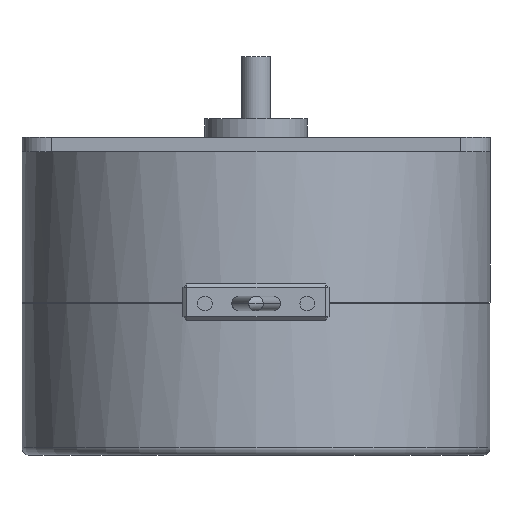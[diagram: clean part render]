
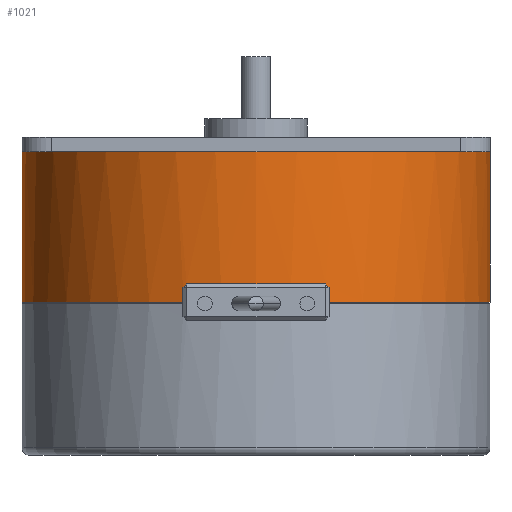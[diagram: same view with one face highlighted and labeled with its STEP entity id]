
A CAD part, front view. The second image highlights one B-rep face of the part: STEP entity #1021.
In plain terms, the highlighted cylindrical face has radius 32 mm (diameter 64 mm), a partial arc.
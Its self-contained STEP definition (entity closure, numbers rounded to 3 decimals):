
#27 = VERTEX_POINT ( 'NONE', #2738 ) ;
#48 = ORIENTED_EDGE ( 'NONE', *, *, #1507, .F. ) ;
#54 = CARTESIAN_POINT ( 'NONE',  ( 10., -30.397, -20.55 ) ) ;
#73 = EDGE_CURVE ( 'NONE', #1800, #1531, #1394, .T. ) ;
#81 = CARTESIAN_POINT ( 'NONE',  ( 9.5, -30.557, -20.05 ) ) ;
#106 = CARTESIAN_POINT ( 'NONE',  ( -32., 0., -22.55 ) ) ;
#148 = VERTEX_POINT ( 'NONE', #2858 ) ;
#173 = DIRECTION ( 'NONE',  ( 1., 0., 0. ) ) ;
#217 = DIRECTION ( 'NONE',  ( 0., 0., 1. ) ) ;
#225 = EDGE_CURVE ( 'NONE', #1531, #27, #2228, .T. ) ;
#230 = DIRECTION ( 'NONE',  ( 0., 0., 1. ) ) ;
#274 = CARTESIAN_POINT ( 'NONE',  ( 0., 0., -20.05 ) ) ;
#421 = CARTESIAN_POINT ( 'NONE',  ( -9.5, -30.557, -20.05 ) ) ;
#428 = EDGE_CURVE ( 'NONE', #1732, #148, #667, .T. ) ;
#445 = DIRECTION ( 'NONE',  ( 0., 0., -1. ) ) ;
#465 = VERTEX_POINT ( 'NONE', #1824 ) ;
#469 = VERTEX_POINT ( 'NONE', #421 ) ;
#474 = VERTEX_POINT ( 'NONE', #2539 ) ;
#506 = DIRECTION ( 'NONE',  ( 0., 0., 1. ) ) ;
#537 = EDGE_CURVE ( 'NONE', #148, #1807, #2289, .T. ) ;
#606 = CARTESIAN_POINT ( 'NONE',  ( -9.834, -30.452, -20.384 ) ) ;
#648 = CARTESIAN_POINT ( 'NONE',  ( 0., 0., 0. ) ) ;
#649 = ORIENTED_EDGE ( 'NONE', *, *, #1052, .T. ) ;
#653 = CARTESIAN_POINT ( 'NONE',  ( -32., 0., 0. ) ) ;
#667 = CIRCLE ( 'NONE', #1301, 32. ) ;
#682 = CARTESIAN_POINT ( 'NONE',  ( 0., 0., -22.55 ) ) ;
#726 = CARTESIAN_POINT ( 'NONE',  ( 10., -30.397, -22.55 ) ) ;
#863 = AXIS2_PLACEMENT_3D ( 'NONE', #3022, #217, #1162 ) ;
#873 = DIRECTION ( 'NONE',  ( 0., 0., 1. ) ) ;
#902 = CARTESIAN_POINT ( 'NONE',  ( 0., 0., -2. ) ) ;
#1001 = CIRCLE ( 'NONE', #1396, 32. ) ;
#1021 = ADVANCED_FACE ( 'NONE', ( #2235 ), #2082, .T. ) ;
#1052 = EDGE_CURVE ( 'NONE', #1295, #1800, #1085, .T. ) ;
#1085 = LINE ( 'NONE', #2554, #2881 ) ;
#1156 = VECTOR ( 'NONE', #1347, 1000. ) ;
#1162 = DIRECTION ( 'NONE',  ( 1., 0., 0. ) ) ;
#1163 = AXIS2_PLACEMENT_3D ( 'NONE', #2534, #1586, #2063 ) ;
#1276 =( BOUNDED_CURVE ( )  B_SPLINE_CURVE ( 3, ( #81, #1467, #2867, #54 ),
 .UNSPECIFIED., .F., .F. ) 
 B_SPLINE_CURVE_WITH_KNOTS ( ( 4, 4 ),
 ( 1.872, 1.889 ),
 .UNSPECIFIED. ) 
 CURVE ( )  GEOMETRIC_REPRESENTATION_ITEM ( )  RATIONAL_B_SPLINE_CURVE ( ( 1., 1., 1., 1. ) ) 
 REPRESENTATION_ITEM ( '' )  );
#1295 = VERTEX_POINT ( 'NONE', #1481 ) ;
#1301 = AXIS2_PLACEMENT_3D ( 'NONE', #682, #2047, #2031 ) ;
#1330 = CARTESIAN_POINT ( 'NONE',  ( -9.5, -30.557, -20.05 ) ) ;
#1331 = ORIENTED_EDGE ( 'NONE', *, *, #2760, .T. ) ;
#1344 = ORIENTED_EDGE ( 'NONE', *, *, #428, .T. ) ;
#1347 = DIRECTION ( 'NONE',  ( 0., 0., 1. ) ) ;
#1387 = DIRECTION ( 'NONE',  ( 0., 0., 1. ) ) ;
#1394 = CIRCLE ( 'NONE', #863, 32. ) ;
#1396 = AXIS2_PLACEMENT_3D ( 'NONE', #902, #1387, #2535 ) ;
#1401 = EDGE_CURVE ( 'NONE', #1807, #469, #1809, .T. ) ;
#1467 = CARTESIAN_POINT ( 'NONE',  ( 9.667, -30.505, -20.217 ) ) ;
#1481 = CARTESIAN_POINT ( 'NONE',  ( 10., -30.397, -20.55 ) ) ;
#1507 = EDGE_CURVE ( 'NONE', #1732, #2062, #1599, .T. ) ;
#1531 = VERTEX_POINT ( 'NONE', #1579 ) ;
#1537 = VECTOR ( 'NONE', #506, 1000. ) ;
#1554 = ORIENTED_EDGE ( 'NONE', *, *, #1401, .T. ) ;
#1579 = CARTESIAN_POINT ( 'NONE',  ( 32., 0., -22.55 ) ) ;
#1586 = DIRECTION ( 'NONE',  ( 0., 0., 1. ) ) ;
#1599 = LINE ( 'NONE', #653, #1156 ) ;
#1609 = VECTOR ( 'NONE', #2912, 1000. ) ;
#1618 = CIRCLE ( 'NONE', #1862, 32. ) ;
#1622 = CIRCLE ( 'NONE', #1163, 32. ) ;
#1726 = CARTESIAN_POINT ( 'NONE',  ( 32., 0., 0. ) ) ;
#1732 = VERTEX_POINT ( 'NONE', #106 ) ;
#1749 = ORIENTED_EDGE ( 'NONE', *, *, #73, .T. ) ;
#1800 = VERTEX_POINT ( 'NONE', #726 ) ;
#1807 = VERTEX_POINT ( 'NONE', #2337 ) ;
#1809 =( BOUNDED_CURVE ( )  B_SPLINE_CURVE ( 3, ( #2452, #606, #2967, #1330 ),
 .UNSPECIFIED., .F., .F. ) 
 B_SPLINE_CURVE_WITH_KNOTS ( ( 4, 4 ),
 ( 4.395, 4.411 ),
 .UNSPECIFIED. ) 
 CURVE ( )  GEOMETRIC_REPRESENTATION_ITEM ( )  RATIONAL_B_SPLINE_CURVE ( ( 1., 1., 1., 1. ) ) 
 REPRESENTATION_ITEM ( '' )  );
#1819 = ORIENTED_EDGE ( 'NONE', *, *, #2661, .F. ) ;
#1824 = CARTESIAN_POINT ( 'NONE',  ( 9.5, -30.557, -20.05 ) ) ;
#1862 = AXIS2_PLACEMENT_3D ( 'NONE', #274, #230, #1894 ) ;
#1889 = EDGE_CURVE ( 'NONE', #474, #27, #1622, .T. ) ;
#1894 = DIRECTION ( 'NONE',  ( 1., 0., 0. ) ) ;
#1951 = AXIS2_PLACEMENT_3D ( 'NONE', #648, #873, #173 ) ;
#1994 = ORIENTED_EDGE ( 'NONE', *, *, #2555, .T. ) ;
#2031 = DIRECTION ( 'NONE',  ( 1., 0., 0. ) ) ;
#2047 = DIRECTION ( 'NONE',  ( 0., 0., 1. ) ) ;
#2062 = VERTEX_POINT ( 'NONE', #2243 ) ;
#2063 = DIRECTION ( 'NONE',  ( 1., 0., 0. ) ) ;
#2082 = CYLINDRICAL_SURFACE ( 'NONE', #1951, 32. ) ;
#2228 = LINE ( 'NONE', #1726, #1609 ) ;
#2235 = FACE_OUTER_BOUND ( 'NONE', #2978, .T. ) ;
#2243 = CARTESIAN_POINT ( 'NONE',  ( -32., 0., -2. ) ) ;
#2289 = LINE ( 'NONE', #2744, #1537 ) ;
#2334 = ORIENTED_EDGE ( 'NONE', *, *, #537, .T. ) ;
#2337 = CARTESIAN_POINT ( 'NONE',  ( -10., -30.397, -20.55 ) ) ;
#2452 = CARTESIAN_POINT ( 'NONE',  ( -10., -30.397, -20.55 ) ) ;
#2534 = CARTESIAN_POINT ( 'NONE',  ( 0., 0., -2. ) ) ;
#2535 = DIRECTION ( 'NONE',  ( 1., 0., 0. ) ) ;
#2539 = CARTESIAN_POINT ( 'NONE',  ( 0., -32., -2. ) ) ;
#2554 = CARTESIAN_POINT ( 'NONE',  ( 10., -30.397, 0. ) ) ;
#2555 = EDGE_CURVE ( 'NONE', #465, #1295, #1276, .T. ) ;
#2661 = EDGE_CURVE ( 'NONE', #2062, #474, #1001, .T. ) ;
#2669 = ORIENTED_EDGE ( 'NONE', *, *, #225, .T. ) ;
#2738 = CARTESIAN_POINT ( 'NONE',  ( 32., 0., -2. ) ) ;
#2744 = CARTESIAN_POINT ( 'NONE',  ( -10., -30.397, 0. ) ) ;
#2760 = EDGE_CURVE ( 'NONE', #469, #465, #1618, .T. ) ;
#2851 = ORIENTED_EDGE ( 'NONE', *, *, #1889, .F. ) ;
#2858 = CARTESIAN_POINT ( 'NONE',  ( -10., -30.397, -22.55 ) ) ;
#2867 = CARTESIAN_POINT ( 'NONE',  ( 9.834, -30.452, -20.384 ) ) ;
#2881 = VECTOR ( 'NONE', #445, 1000. ) ;
#2912 = DIRECTION ( 'NONE',  ( 0., 0., 1. ) ) ;
#2967 = CARTESIAN_POINT ( 'NONE',  ( -9.667, -30.505, -20.217 ) ) ;
#2978 = EDGE_LOOP ( 'NONE', ( #48, #1344, #2334, #1554, #1331, #1994, #649, #1749, #2669, #2851, #1819 ) ) ;
#3022 = CARTESIAN_POINT ( 'NONE',  ( 0., 0., -22.55 ) ) ;
